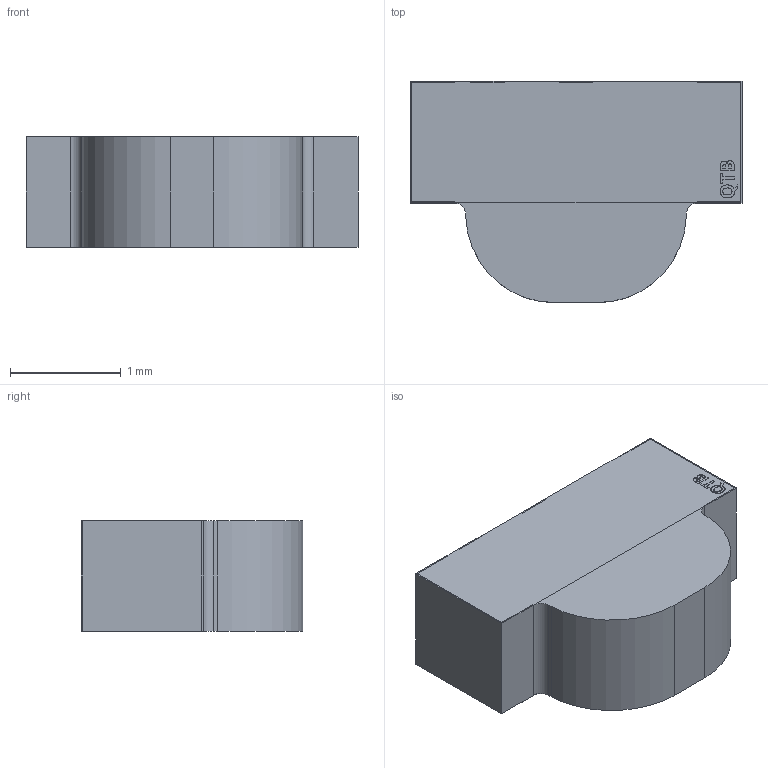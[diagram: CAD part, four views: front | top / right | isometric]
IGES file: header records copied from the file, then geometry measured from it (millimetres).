
Start section: Data from Parasolid IGES Translator 23.1.110, Copyright(c) 2006 Siemens PLM Software. All Rights Reserved.
Global section: file name: 5fab0b61d744430f54273f09.iges; native system: By Siemens PLM Incorporated; preprocessor: XPlus GENERIC/IGES 23.1.110; author: Noname; organization: Noname; date: 20201110.215130; units: metre
Bounding box: 3 x 2 x 1 mm (x, y, z)
Surface area: 32.7 mm2 (no closed solid volume)
Topology: 0 solids, 0 shells, 145 faces, 762 edges, 762 vertices
Faces by surface type: extrusion 133, revolution 12
